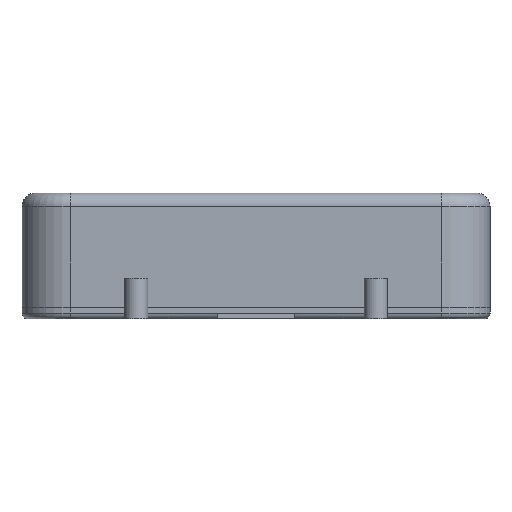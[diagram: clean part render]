
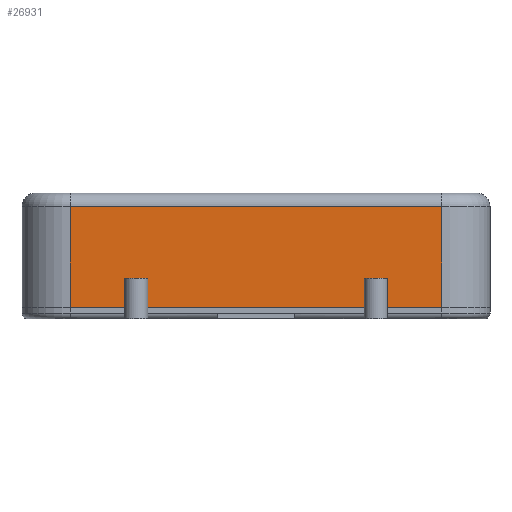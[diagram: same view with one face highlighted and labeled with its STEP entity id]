
A CAD part, front view. The second image highlights one B-rep face of the part: STEP entity #26931.
In plain terms, the highlighted planar face has unit normal (0, -1, 0).
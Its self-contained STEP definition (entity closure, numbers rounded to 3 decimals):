
#947=PLANE('',#28149);
#2390=FACE_OUTER_BOUND('',#3963,.T.);
#3963=EDGE_LOOP('',(#22130,#22131,#22132,#22133,#22134,#22135,#22136,#22137,
#22138,#22139,#22140,#22141));
#6022=LINE('',#45645,#8950);
#6026=LINE('',#45653,#8954);
#6030=LINE('',#45661,#8958);
#6043=LINE('',#45696,#8971);
#6044=LINE('',#45699,#8972);
#6046=LINE('',#45702,#8974);
#6047=LINE('',#45705,#8975);
#6048=LINE('',#45707,#8976);
#6049=LINE('',#45708,#8977);
#6050=LINE('',#45710,#8978);
#6051=LINE('',#45712,#8979);
#6052=LINE('',#45713,#8980);
#8950=VECTOR('',#31111,10.);
#8954=VECTOR('',#31115,10.);
#8958=VECTOR('',#31119,10.);
#8971=VECTOR('',#31148,10.);
#8972=VECTOR('',#31151,10.);
#8974=VECTOR('',#31155,10.);
#8975=VECTOR('',#31158,10.);
#8976=VECTOR('',#31159,10.);
#8977=VECTOR('',#31160,10.);
#8978=VECTOR('',#31161,10.);
#8979=VECTOR('',#31162,10.);
#8980=VECTOR('',#31163,10.);
#12816=VERTEX_POINT('',#45642);
#12817=VERTEX_POINT('',#45644);
#12820=VERTEX_POINT('',#45650);
#12821=VERTEX_POINT('',#45652);
#12824=VERTEX_POINT('',#45658);
#12825=VERTEX_POINT('',#45660);
#12839=VERTEX_POINT('',#45694);
#12840=VERTEX_POINT('',#45698);
#12841=VERTEX_POINT('',#45704);
#12842=VERTEX_POINT('',#45706);
#12843=VERTEX_POINT('',#45709);
#12844=VERTEX_POINT('',#45711);
#16098=EDGE_CURVE('',#12817,#12816,#6022,.T.);
#16102=EDGE_CURVE('',#12821,#12820,#6026,.T.);
#16106=EDGE_CURVE('',#12825,#12824,#6030,.T.);
#16125=EDGE_CURVE('',#12820,#12839,#6043,.T.);
#16126=EDGE_CURVE('',#12840,#12817,#6044,.T.);
#16128=EDGE_CURVE('',#12839,#12840,#6046,.T.);
#16129=EDGE_CURVE('',#12841,#12816,#6047,.T.);
#16130=EDGE_CURVE('',#12842,#12841,#6048,.T.);
#16131=EDGE_CURVE('',#12825,#12842,#6049,.T.);
#16132=EDGE_CURVE('',#12824,#12843,#6050,.T.);
#16133=EDGE_CURVE('',#12843,#12844,#6051,.T.);
#16134=EDGE_CURVE('',#12844,#12821,#6052,.T.);
#22130=ORIENTED_EDGE('',*,*,#16125,.T.);
#22131=ORIENTED_EDGE('',*,*,#16128,.T.);
#22132=ORIENTED_EDGE('',*,*,#16126,.T.);
#22133=ORIENTED_EDGE('',*,*,#16098,.T.);
#22134=ORIENTED_EDGE('',*,*,#16129,.F.);
#22135=ORIENTED_EDGE('',*,*,#16130,.F.);
#22136=ORIENTED_EDGE('',*,*,#16131,.F.);
#22137=ORIENTED_EDGE('',*,*,#16106,.T.);
#22138=ORIENTED_EDGE('',*,*,#16132,.T.);
#22139=ORIENTED_EDGE('',*,*,#16133,.T.);
#22140=ORIENTED_EDGE('',*,*,#16134,.T.);
#22141=ORIENTED_EDGE('',*,*,#16102,.T.);
#26931=ADVANCED_FACE('',(#2390),#947,.T.);
#28149=AXIS2_PLACEMENT_3D('',#45703,#31156,#31157);
#31111=DIRECTION('',(1.,0.,0.));
#31115=DIRECTION('',(1.,0.,0.));
#31119=DIRECTION('',(1.,0.,0.));
#31148=DIRECTION('',(0.,0.,1.));
#31151=DIRECTION('',(0.,0.,-1.));
#31155=DIRECTION('',(1.,0.,0.));
#31156=DIRECTION('center_axis',(0.,-1.,0.));
#31157=DIRECTION('ref_axis',(1.,0.,0.));
#31158=DIRECTION('',(0.,0.,-1.));
#31159=DIRECTION('',(1.,0.,0.));
#31160=DIRECTION('',(0.,0.,1.));
#31161=DIRECTION('',(0.,0.,1.));
#31162=DIRECTION('',(1.,0.,0.));
#31163=DIRECTION('',(0.,0.,-1.));
#45642=CARTESIAN_POINT('',(19.2,-27.5,-6.5));
#45644=CARTESIAN_POINT('',(13.6,-27.5,-6.5));
#45645=CARTESIAN_POINT('',(-24.2,-27.5,-6.5));
#45650=CARTESIAN_POINT('',(11.2,-27.5,-6.5));
#45652=CARTESIAN_POINT('',(-11.2,-27.5,-6.5));
#45653=CARTESIAN_POINT('',(-24.2,-27.5,-6.5));
#45658=CARTESIAN_POINT('',(-13.6,-27.5,-6.5));
#45660=CARTESIAN_POINT('',(-19.2,-27.5,-6.5));
#45661=CARTESIAN_POINT('',(-24.2,-27.5,-6.5));
#45694=CARTESIAN_POINT('',(11.2,-27.5,-3.5));
#45696=CARTESIAN_POINT('',(11.2,-27.5,-6.5));
#45698=CARTESIAN_POINT('',(13.6,-27.5,-3.5));
#45699=CARTESIAN_POINT('',(13.6,-27.5,-6.5));
#45702=CARTESIAN_POINT('',(-5.9,-27.5,-3.5));
#45703=CARTESIAN_POINT('Origin',(-24.2,-27.5,-6.5));
#45704=CARTESIAN_POINT('',(19.2,-27.5,3.9));
#45705=CARTESIAN_POINT('',(19.2,-27.5,-6.5));
#45706=CARTESIAN_POINT('',(-19.2,-27.5,3.9));
#45707=CARTESIAN_POINT('',(-12.1,-27.5,3.9));
#45708=CARTESIAN_POINT('',(-19.2,-27.5,-6.5));
#45709=CARTESIAN_POINT('',(-13.6,-27.5,-3.5));
#45710=CARTESIAN_POINT('',(-13.6,-27.5,-6.5));
#45711=CARTESIAN_POINT('',(-11.2,-27.5,-3.5));
#45712=CARTESIAN_POINT('',(-18.3,-27.5,-3.5));
#45713=CARTESIAN_POINT('',(-11.2,-27.5,-6.5));
